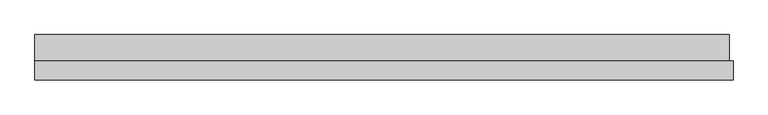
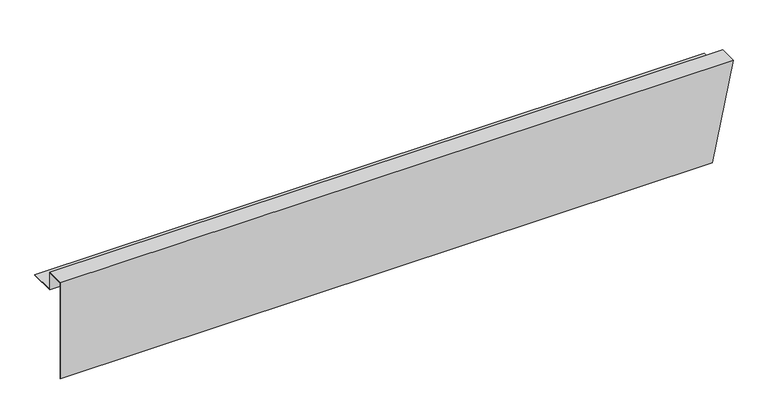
"""IFC4 building model written with IfcOpenShell, lengths in millimetres: proxy geometry, Боковой откос : Тип."""

from ifc_helpers import new_model, si_unit, origin, place, context, project, spatial, faceted_brep, source, transform, mapped, element, save


def generic_models_65506e06(model_context):
    return source(origin(), model_context, "Body", "Brep", [
        faceted_brep([(0.0, -1.0, -19.2), (0.0, 69.0, -19.2), (0.0, 69.0, -20.0), (0.0, -1.8, -20.0), (0.0, -1.8, 29.2), (0.0, -50.2, 29.2), (0.0, -50.2, -247.0), (0.0, -51.0, -247.0), (0.0, -51.0, 30.0), (0.0, -1.0, 30.0), (1838.8666667, -1.0, 30.0), (1828.6986667, -1.0, -19.2), (1838.8666667, -51.0, 30.0), (1781.62, -51.0, -247.0), (1781.62, -50.2, -247.0), (1838.7013333, -50.2, 29.2), (1838.7013333, -1.8, 29.2), (1828.5333333, -1.8, -20.0), (1828.5333333, 69.0, -20.0), (1828.6986667, 69.0, -19.2)], [[[0, 1, 2, 3, 4, 5, 6, 7, 8, 9]], [[0, 9, 10, 11]], [[9, 8, 12, 10]], [[8, 7, 13, 12]], [[7, 6, 14, 13]], [[6, 5, 15, 14]], [[5, 4, 16, 15]], [[4, 3, 17, 16]], [[3, 2, 18, 17]], [[2, 1, 19, 18]], [[1, 0, 11, 19]], [[11, 10, 12, 13, 14, 15, 16, 17, 18, 19]]]),
    ])


if __name__ == "__main__":
    model = new_model("IFC4")
    model_context = context("Model", 3, world=origin())
    ifc_project = project(units=[si_unit("LENGTHUNIT", "METRE", prefix="MILLI")], contexts=[model_context])
    site = spatial("IfcSite", under=ifc_project)
    building = spatial("IfcBuilding", under=site)
    placement = place(None, origin())
    generic_models_shape = generic_models_65506e06(model_context)
    element("IfcBuildingElementProxy", 1, Name="Боковой откос : Тип", ObjectType="Боковой откос : Тип", at=placement, inside=building, context=model_context, shape_type="MappedRepresentation", body=[
        mapped(generic_models_shape, transform((0.0, 0.0, 0.0), x_axis=(1.0, 0.0, 0.0), y_axis=(0.0, 1.0, 0.0), z_axis=(0.0, 0.0, 1.0))),
    ])
    save(model, "model.ifc")
